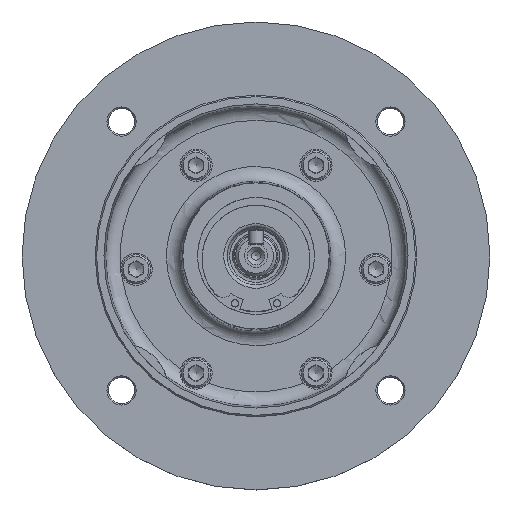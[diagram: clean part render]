
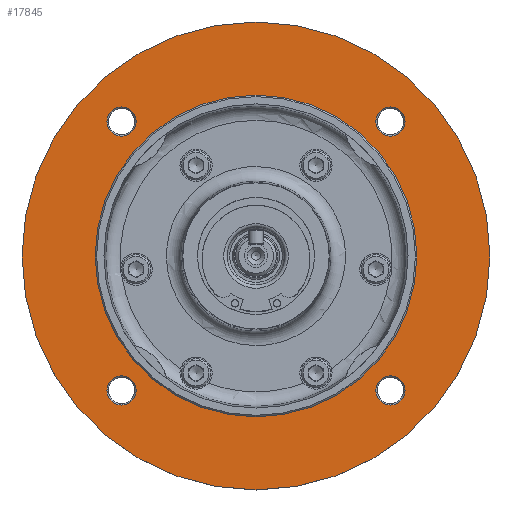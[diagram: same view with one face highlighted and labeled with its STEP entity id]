
A CAD part, top view. The second image highlights one B-rep face of the part: STEP entity #17845.
In plain terms, the highlighted planar face has unit normal (0, 0, 1).
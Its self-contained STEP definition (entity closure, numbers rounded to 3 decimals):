
#291 = EDGE_LOOP ( 'NONE', ( #15763 ) ) ;
#460 = FACE_OUTER_BOUND ( 'NONE', #3510, .T. ) ;
#514 = VERTEX_POINT ( 'NONE', #14258 ) ;
#606 = FACE_BOUND ( 'NONE', #19157, .T. ) ;
#658 = VERTEX_POINT ( 'NONE', #21219 ) ;
#752 = FACE_BOUND ( 'NONE', #291, .T. ) ;
#780 = CARTESIAN_POINT ( 'NONE',  ( 0., 4.5, 43.05 ) ) ;
#825 = EDGE_CURVE ( 'NONE', #20502, #20502, #6477, .T. ) ;
#1225 = DIRECTION ( 'NONE',  ( 0., -1., 0. ) ) ;
#1484 = EDGE_LOOP ( 'NONE', ( #16062 ) ) ;
#1652 = AXIS2_PLACEMENT_3D ( 'NONE', #3646, #3495, #17103 ) ;
#1801 = DIRECTION ( 'NONE',  ( 0., -1., 0. ) ) ;
#2259 = CIRCLE ( 'NONE', #18673, 5. ) ;
#2668 = DIRECTION ( 'NONE',  ( 0., 0., -1. ) ) ;
#2710 = EDGE_CURVE ( 'NONE', #17930, #17930, #16176, .T. ) ;
#2905 = DIRECTION ( 'NONE',  ( 0., 0., 1. ) ) ;
#3053 = AXIS2_PLACEMENT_3D ( 'NONE', #19067, #14662, #25987 ) ;
#3159 = CARTESIAN_POINT ( 'NONE',  ( 45.962, -41.462, 43.05 ) ) ;
#3495 = DIRECTION ( 'NONE',  ( 0., 0., -1. ) ) ;
#3510 = EDGE_LOOP ( 'NONE', ( #17004 ) ) ;
#3646 = CARTESIAN_POINT ( 'NONE',  ( -45.962, -41.462, 43.05 ) ) ;
#4442 = VERTEX_POINT ( 'NONE', #22255 ) ;
#4944 = CARTESIAN_POINT ( 'NONE',  ( -45.962, 50.462, 43.05 ) ) ;
#5238 = EDGE_CURVE ( 'NONE', #514, #514, #7567, .T. ) ;
#5565 = EDGE_CURVE ( 'NONE', #658, #658, #2259, .T. ) ;
#6117 = AXIS2_PLACEMENT_3D ( 'NONE', #780, #2905, #1225 ) ;
#6195 = DIRECTION ( 'NONE',  ( 0., 0., -1. ) ) ;
#6477 = CIRCLE ( 'NONE', #1652, 5. ) ;
#6558 = EDGE_LOOP ( 'NONE', ( #20204 ) ) ;
#7567 = CIRCLE ( 'NONE', #6117, 80. ) ;
#9360 = DIRECTION ( 'NONE',  ( 1., 0., 0. ) ) ;
#9715 = FACE_BOUND ( 'NONE', #21034, .T. ) ;
#9858 = PLANE ( 'NONE',  #3053 ) ;
#10460 = DIRECTION ( 'NONE',  ( 0., 0., -1. ) ) ;
#10978 = CARTESIAN_POINT ( 'NONE',  ( -40.962, -41.462, 43.05 ) ) ;
#11675 = EDGE_CURVE ( 'NONE', #27878, #27878, #29398, .T. ) ;
#11807 = AXIS2_PLACEMENT_3D ( 'NONE', #12562, #10460, #26309 ) ;
#11943 = FACE_BOUND ( 'NONE', #1484, .T. ) ;
#12562 = CARTESIAN_POINT ( 'NONE',  ( 45.962, 50.462, 43.05 ) ) ;
#13496 = ORIENTED_EDGE ( 'NONE', *, *, #2710, .T. ) ;
#14258 = CARTESIAN_POINT ( 'NONE',  ( 0., -75.5, 43.05 ) ) ;
#14405 = AXIS2_PLACEMENT_3D ( 'NONE', #18133, #6195, #1801 ) ;
#14662 = DIRECTION ( 'NONE',  ( 0., 0., 1. ) ) ;
#15008 = ORIENTED_EDGE ( 'NONE', *, *, #825, .T. ) ;
#15763 = ORIENTED_EDGE ( 'NONE', *, *, #28746, .T. ) ;
#16062 = ORIENTED_EDGE ( 'NONE', *, *, #11675, .T. ) ;
#16176 = CIRCLE ( 'NONE', #11807, 5. ) ;
#17004 = ORIENTED_EDGE ( 'NONE', *, *, #5238, .T. ) ;
#17103 = DIRECTION ( 'NONE',  ( 1., 0., 0. ) ) ;
#17845 = ADVANCED_FACE ( 'NONE', ( #11943, #460, #9715, #752, #606, #21458 ), #9858, .T. ) ;
#17930 = VERTEX_POINT ( 'NONE', #22594 ) ;
#18133 = CARTESIAN_POINT ( 'NONE',  ( 0., 4.5, 43.05 ) ) ;
#18673 = AXIS2_PLACEMENT_3D ( 'NONE', #3159, #19515, #19056 ) ;
#19056 = DIRECTION ( 'NONE',  ( 1., 0., 0. ) ) ;
#19067 = CARTESIAN_POINT ( 'NONE',  ( 0., 4.5, 43.05 ) ) ;
#19157 = EDGE_LOOP ( 'NONE', ( #15008 ) ) ;
#19515 = DIRECTION ( 'NONE',  ( 0., 0., -1. ) ) ;
#20204 = ORIENTED_EDGE ( 'NONE', *, *, #5565, .T. ) ;
#20502 = VERTEX_POINT ( 'NONE', #10978 ) ;
#21034 = EDGE_LOOP ( 'NONE', ( #13496 ) ) ;
#21219 = CARTESIAN_POINT ( 'NONE',  ( 50.962, -41.462, 43.05 ) ) ;
#21458 = FACE_BOUND ( 'NONE', #6558, .T. ) ;
#21782 = CIRCLE ( 'NONE', #25646, 5. ) ;
#22255 = CARTESIAN_POINT ( 'NONE',  ( -40.962, 50.462, 43.05 ) ) ;
#22594 = CARTESIAN_POINT ( 'NONE',  ( 50.962, 50.462, 43.05 ) ) ;
#23761 = CARTESIAN_POINT ( 'NONE',  ( 0., -50.5, 43.05 ) ) ;
#25646 = AXIS2_PLACEMENT_3D ( 'NONE', #4944, #2668, #9360 ) ;
#25987 = DIRECTION ( 'NONE',  ( 0., -1., 0. ) ) ;
#26309 = DIRECTION ( 'NONE',  ( 1., 0., 0. ) ) ;
#27878 = VERTEX_POINT ( 'NONE', #23761 ) ;
#28746 = EDGE_CURVE ( 'NONE', #4442, #4442, #21782, .T. ) ;
#29398 = CIRCLE ( 'NONE', #14405, 55. ) ;
